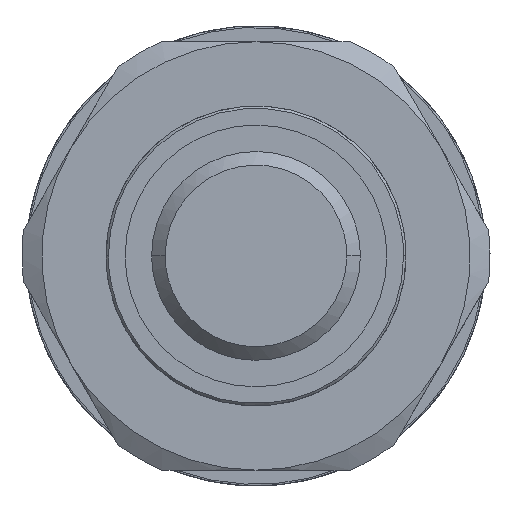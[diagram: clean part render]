
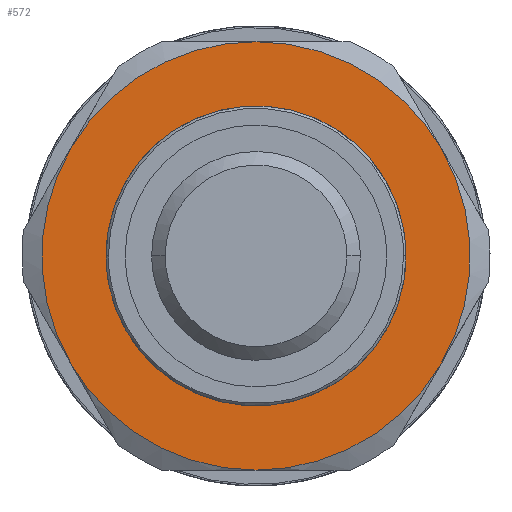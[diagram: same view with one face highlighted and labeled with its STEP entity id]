
A CAD part, front view. The second image highlights one B-rep face of the part: STEP entity #572.
In plain terms, the highlighted planar face has unit normal (0, -1, 0).
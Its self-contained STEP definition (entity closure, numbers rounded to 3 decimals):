
#473 = EDGE_CURVE ( 'NONE', #474, #475, #3047, .T. ) ;
#474 = VERTEX_POINT ( 'NONE', #3046 ) ;
#475 = VERTEX_POINT ( 'NONE', #3048 ) ;
#515 = ORIENTED_EDGE ( 'NONE', *, *, #473, .F. ) ;
#516 = ORIENTED_EDGE ( 'NONE', *, *, #537, .F. ) ;
#517 = EDGE_LOOP ( 'NONE', ( #518, #525, #528, #531, #534, #578 ) ) ;
#518 = ORIENTED_EDGE ( 'NONE', *, *, #522, .F. ) ;
#522 = EDGE_CURVE ( 'NONE', #523, #524, #3258, .T. ) ;
#523 = VERTEX_POINT ( 'NONE', #3257 ) ;
#524 = VERTEX_POINT ( 'NONE', #3305 ) ;
#525 = ORIENTED_EDGE ( 'NONE', *, *, #526, .F. ) ;
#526 = EDGE_CURVE ( 'NONE', #527, #523, #3298, .T. ) ;
#527 = VERTEX_POINT ( 'NONE', #3297 ) ;
#528 = ORIENTED_EDGE ( 'NONE', *, *, #530, .F. ) ;
#529 = VERTEX_POINT ( 'NONE', #3296 ) ;
#530 = EDGE_CURVE ( 'NONE', #529, #527, #3289, .T. ) ;
#531 = ORIENTED_EDGE ( 'NONE', *, *, #532, .F. ) ;
#532 = EDGE_CURVE ( 'NONE', #533, #529, #3281, .T. ) ;
#533 = VERTEX_POINT ( 'NONE', #3288 ) ;
#534 = ORIENTED_EDGE ( 'NONE', *, *, #576, .F. ) ;
#537 = EDGE_CURVE ( 'NONE', #475, #474, #3317, .T. ) ;
#572 = ADVANCED_FACE ( 'NONE', ( #3471, #3498 ), #3500, .F. ) ;
#573 = EDGE_LOOP ( 'NONE', ( #515, #516 ) ) ;
#576 = EDGE_CURVE ( 'NONE', #577, #533, #3557, .T. ) ;
#577 = VERTEX_POINT ( 'NONE', #3556 ) ;
#578 = ORIENTED_EDGE ( 'NONE', *, *, #579, .F. ) ;
#579 = EDGE_CURVE ( 'NONE', #524, #577, #3548, .T. ) ;
#3038 = CARTESIAN_POINT ( 'NONE',  ( -9.45, 0., 3.711 ) ) ;
#3039 = CARTESIAN_POINT ( 'NONE',  ( -7.785, 0., 7.422 ) ) ;
#3040 = CARTESIAN_POINT ( 'NONE',  ( -4.454, 0., 10.261 ) ) ;
#3041 = CARTESIAN_POINT ( 'NONE',  ( -0.001, 0., 11.357 ) ) ;
#3042 = CARTESIAN_POINT ( 'NONE',  ( 4.455, 0., 10.261 ) ) ;
#3043 = CARTESIAN_POINT ( 'NONE',  ( 7.785, 0., 7.422 ) ) ;
#3044 = CARTESIAN_POINT ( 'NONE',  ( 9.45, 0., 3.711 ) ) ;
#3045 = CARTESIAN_POINT ( 'NONE',  ( 9.45, 0., 0. ) ) ;
#3046 = CARTESIAN_POINT ( 'NONE',  ( 9.45, 0., 0. ) ) ;
#3047 = B_SPLINE_CURVE_WITH_KNOTS ( 'NONE', 8,
 ( #3045, #3044, #3043, #3042, #3041, #3040, #3039, #3038, #3082 ),
 .UNSPECIFIED., .F., .F.,
 ( 9, 9 ),
 ( 0., 0.03 ),
 .UNSPECIFIED. ) ;
#3048 = CARTESIAN_POINT ( 'NONE',  ( -9.45, 0., 0. ) ) ;
#3082 = CARTESIAN_POINT ( 'NONE',  ( -9.45, 0., 0. ) ) ;
#3257 = CARTESIAN_POINT ( 'NONE',  ( 11.691, 0., 6.75 ) ) ;
#3258 = B_SPLINE_CURVE_WITH_KNOTS ( 'NONE', 5,
 ( #3304, #3303, #3302, #3301, #3300, #3299 ),
 .UNSPECIFIED., .F., .F.,
 ( 6, 6 ),
 ( 0., 0.014 ),
 .UNSPECIFIED. ) ;
#3281 = B_SPLINE_CURVE_WITH_KNOTS ( 'NONE', 5,
 ( #3323, #3322, #3321, #3320, #3319, #3318 ),
 .UNSPECIFIED., .F., .F.,
 ( 6, 6 ),
 ( 0., 0.014 ),
 .UNSPECIFIED. ) ;
#3282 = CARTESIAN_POINT ( 'NONE',  ( 0., 0., 13.5 ) ) ;
#3283 = CARTESIAN_POINT ( 'NONE',  ( -2.827, 0., 13.5 ) ) ;
#3284 = CARTESIAN_POINT ( 'NONE',  ( -5.655, 0., 12.76 ) ) ;
#3285 = CARTESIAN_POINT ( 'NONE',  ( -8.223, 0., 11.277 ) ) ;
#3286 = CARTESIAN_POINT ( 'NONE',  ( -10.278, 0., 9.199 ) ) ;
#3287 = CARTESIAN_POINT ( 'NONE',  ( -11.691, 0., 6.75 ) ) ;
#3288 = CARTESIAN_POINT ( 'NONE',  ( -11.691, 0., -6.75 ) ) ;
#3289 = B_SPLINE_CURVE_WITH_KNOTS ( 'NONE', 5,
 ( #3287, #3286, #3285, #3284, #3283, #3282 ),
 .UNSPECIFIED., .F., .F.,
 ( 6, 6 ),
 ( 0., 0.014 ),
 .UNSPECIFIED. ) ;
#3290 = CARTESIAN_POINT ( 'NONE',  ( 11.691, 0., 6.75 ) ) ;
#3291 = CARTESIAN_POINT ( 'NONE',  ( 10.278, 0., 9.199 ) ) ;
#3292 = CARTESIAN_POINT ( 'NONE',  ( 8.223, 0., 11.277 ) ) ;
#3293 = CARTESIAN_POINT ( 'NONE',  ( 5.655, 0., 12.76 ) ) ;
#3294 = CARTESIAN_POINT ( 'NONE',  ( 2.827, 0., 13.5 ) ) ;
#3295 = CARTESIAN_POINT ( 'NONE',  ( 0., 0., 13.5 ) ) ;
#3296 = CARTESIAN_POINT ( 'NONE',  ( -11.691, 0., 6.75 ) ) ;
#3297 = CARTESIAN_POINT ( 'NONE',  ( 0., 0., 13.5 ) ) ;
#3298 = B_SPLINE_CURVE_WITH_KNOTS ( 'NONE', 5,
 ( #3295, #3294, #3293, #3292, #3291, #3290 ),
 .UNSPECIFIED., .F., .F.,
 ( 6, 6 ),
 ( 0., 0.014 ),
 .UNSPECIFIED. ) ;
#3299 = CARTESIAN_POINT ( 'NONE',  ( 11.691, 0., -6.75 ) ) ;
#3300 = CARTESIAN_POINT ( 'NONE',  ( 13.105, 0., -4.301 ) ) ;
#3301 = CARTESIAN_POINT ( 'NONE',  ( 13.878, 0., -1.483 ) ) ;
#3302 = CARTESIAN_POINT ( 'NONE',  ( 13.878, 0., 1.483 ) ) ;
#3303 = CARTESIAN_POINT ( 'NONE',  ( 13.105, 0., 4.301 ) ) ;
#3304 = CARTESIAN_POINT ( 'NONE',  ( 11.691, 0., 6.75 ) ) ;
#3305 = CARTESIAN_POINT ( 'NONE',  ( 11.691, 0., -6.75 ) ) ;
#3306 = CARTESIAN_POINT ( 'NONE',  ( 9.45, 0., 0. ) ) ;
#3307 = CARTESIAN_POINT ( 'NONE',  ( 9.45, 0., -3.711 ) ) ;
#3308 = CARTESIAN_POINT ( 'NONE',  ( 7.785, 0., -7.422 ) ) ;
#3309 = CARTESIAN_POINT ( 'NONE',  ( 4.454, 0., -10.261 ) ) ;
#3310 = CARTESIAN_POINT ( 'NONE',  ( 0.001, 0., -11.357 ) ) ;
#3311 = CARTESIAN_POINT ( 'NONE',  ( -4.455, 0., -10.261 ) ) ;
#3312 = CARTESIAN_POINT ( 'NONE',  ( -7.785, 0., -7.422 ) ) ;
#3313 = CARTESIAN_POINT ( 'NONE',  ( -9.45, 0., -3.711 ) ) ;
#3314 = CARTESIAN_POINT ( 'NONE',  ( -9.45, 0., 0. ) ) ;
#3317 = B_SPLINE_CURVE_WITH_KNOTS ( 'NONE', 8,
 ( #3314, #3313, #3312, #3311, #3310, #3309, #3308, #3307, #3306 ),
 .UNSPECIFIED., .F., .F.,
 ( 9, 9 ),
 ( 0., 0.03 ),
 .UNSPECIFIED. ) ;
#3318 = CARTESIAN_POINT ( 'NONE',  ( -11.691, 0., 6.75 ) ) ;
#3319 = CARTESIAN_POINT ( 'NONE',  ( -13.105, 0., 4.301 ) ) ;
#3320 = CARTESIAN_POINT ( 'NONE',  ( -13.878, 0., 1.483 ) ) ;
#3321 = CARTESIAN_POINT ( 'NONE',  ( -13.878, 0., -1.483 ) ) ;
#3322 = CARTESIAN_POINT ( 'NONE',  ( -13.105, 0., -4.301 ) ) ;
#3323 = CARTESIAN_POINT ( 'NONE',  ( -11.691, 0., -6.75 ) ) ;
#3471 = FACE_BOUND ( 'NONE', #573, .T. ) ;
#3498 = FACE_OUTER_BOUND ( 'NONE', #517, .T. ) ;
#3500 = PLANE ( 'NONE',  #3508 ) ;
#3505 = DIRECTION ( 'NONE',  ( 1., 0., 0. ) ) ;
#3506 = DIRECTION ( 'NONE',  ( 0., 1., 0. ) ) ;
#3507 = CARTESIAN_POINT ( 'NONE',  ( -14.045, 0., 14.04 ) ) ;
#3508 = AXIS2_PLACEMENT_3D ( 'NONE', #3507, #3506, #3505 ) ;
#3542 = CARTESIAN_POINT ( 'NONE',  ( 0., 0., -13.5 ) ) ;
#3543 = CARTESIAN_POINT ( 'NONE',  ( 2.827, 0., -13.5 ) ) ;
#3544 = CARTESIAN_POINT ( 'NONE',  ( 5.655, 0., -12.76 ) ) ;
#3545 = CARTESIAN_POINT ( 'NONE',  ( 8.223, 0., -11.277 ) ) ;
#3546 = CARTESIAN_POINT ( 'NONE',  ( 10.278, 0., -9.199 ) ) ;
#3547 = CARTESIAN_POINT ( 'NONE',  ( 11.691, 0., -6.75 ) ) ;
#3548 = B_SPLINE_CURVE_WITH_KNOTS ( 'NONE', 5,
 ( #3547, #3546, #3545, #3544, #3543, #3542 ),
 .UNSPECIFIED., .F., .F.,
 ( 6, 6 ),
 ( 0., 0.014 ),
 .UNSPECIFIED. ) ;
#3550 = CARTESIAN_POINT ( 'NONE',  ( -11.691, 0., -6.75 ) ) ;
#3551 = CARTESIAN_POINT ( 'NONE',  ( -10.278, 0., -9.199 ) ) ;
#3552 = CARTESIAN_POINT ( 'NONE',  ( -8.223, 0., -11.277 ) ) ;
#3553 = CARTESIAN_POINT ( 'NONE',  ( -5.655, 0., -12.76 ) ) ;
#3554 = CARTESIAN_POINT ( 'NONE',  ( -2.827, 0., -13.5 ) ) ;
#3555 = CARTESIAN_POINT ( 'NONE',  ( 0., 0., -13.5 ) ) ;
#3556 = CARTESIAN_POINT ( 'NONE',  ( 0., 0., -13.5 ) ) ;
#3557 = B_SPLINE_CURVE_WITH_KNOTS ( 'NONE', 5,
 ( #3555, #3554, #3553, #3552, #3551, #3550 ),
 .UNSPECIFIED., .F., .F.,
 ( 6, 6 ),
 ( 0., 0.014 ),
 .UNSPECIFIED. ) ;
